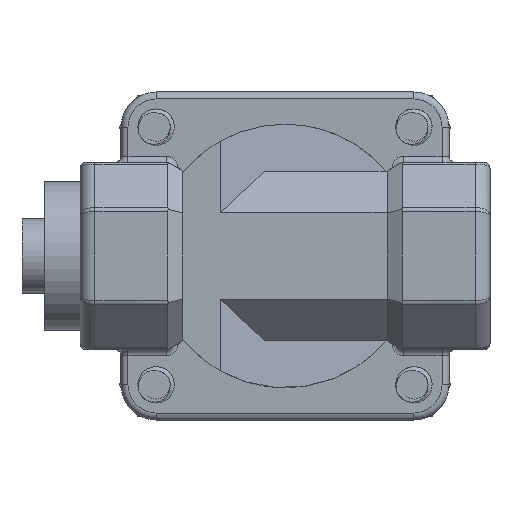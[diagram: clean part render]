
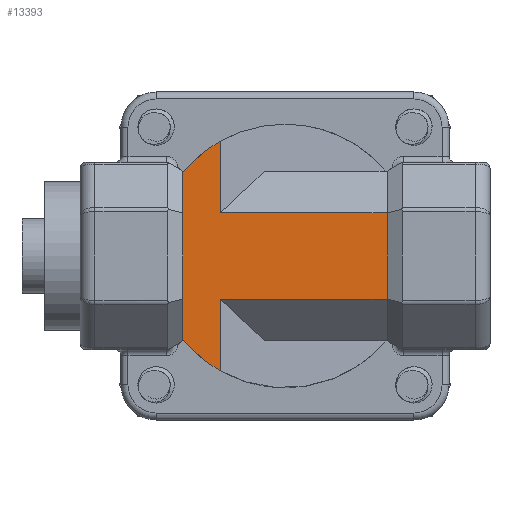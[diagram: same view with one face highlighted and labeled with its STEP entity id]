
A CAD part, front view. The second image highlights one B-rep face of the part: STEP entity #13393.
In plain terms, the highlighted planar face has unit normal (0, -1, 0).
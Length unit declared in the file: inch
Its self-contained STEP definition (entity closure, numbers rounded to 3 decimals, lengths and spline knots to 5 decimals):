
#488 = CARTESIAN_POINT ( 'NONE',  ( -0.43443, -1.35811, 0. ) ) ;
#796 = DIRECTION ( 'NONE',  ( 0., 0., -1. ) ) ;
#2786 = AXIS2_PLACEMENT_3D ( 'NONE', #16896, #8504, #796 ) ;
#3479 = DIRECTION ( 'NONE',  ( 0., 0., -1. ) ) ;
#3914 = VECTOR ( 'NONE', #3479, 39.37008 ) ;
#4021 = ORIENTED_EDGE ( 'NONE', *, *, #13512, .F. ) ;
#4305 = LINE ( 'NONE', #30890, #31759 ) ;
#4333 = EDGE_CURVE ( 'NONE', #10539, #17170, #19404, .T. ) ;
#4507 = EDGE_LOOP ( 'NONE', ( #29802, #4021, #26806, #14825, #19158, #29922, #20759, #11652, #26288, #25468 ) ) ;
#4641 = DIRECTION ( 'NONE',  ( 0., 0., 1. ) ) ;
#4861 = VECTOR ( 'NONE', #13318, 39.37008 ) ;
#5161 = LINE ( 'NONE', #26498, #23194 ) ;
#5851 = CARTESIAN_POINT ( 'NONE',  ( -0.686, -1.35811, 0.56071 ) ) ;
#6456 = DIRECTION ( 'NONE',  ( 0., -1., 0. ) ) ;
#6572 = CARTESIAN_POINT ( 'NONE',  ( -0.686, -1.35811, -0.56071 ) ) ;
#6968 = AXIS2_PLACEMENT_3D ( 'NONE', #17309, #6456, #27980 ) ;
#7203 = CARTESIAN_POINT ( 'NONE',  ( -0.686, -1.35811, -0.29061 ) ) ;
#7434 = DIRECTION ( 'NONE',  ( 0., 0., 1. ) ) ;
#8008 = VECTOR ( 'NONE', #16167, 39.37008 ) ;
#8182 = CARTESIAN_POINT ( 'NONE',  ( 0.686, -1.35811, 0.29061 ) ) ;
#8317 = DIRECTION ( 'NONE',  ( 0., 0., -1. ) ) ;
#8504 = DIRECTION ( 'NONE',  ( 0., -1., 0. ) ) ;
#10523 = CARTESIAN_POINT ( 'NONE',  ( -0.43443, -1.35811, 0.29061 ) ) ;
#10539 = VERTEX_POINT ( 'NONE', #22258 ) ;
#11652 = ORIENTED_EDGE ( 'NONE', *, *, #21457, .F. ) ;
#12023 = VERTEX_POINT ( 'NONE', #6572 ) ;
#13318 = DIRECTION ( 'NONE',  ( 0., 0., -1. ) ) ;
#13393 = ADVANCED_FACE ( 'Defeatured_0_58', ( #32973 ), #24941, .T. ) ;
#13512 = EDGE_CURVE ( 'NONE', #19636, #24060, #19228, .T. ) ;
#14203 = EDGE_CURVE ( 'NONE', #12023, #27541, #4305, .T. ) ;
#14728 = VECTOR ( 'NONE', #16047, 39.37008 ) ;
#14825 = ORIENTED_EDGE ( 'NONE', *, *, #21338, .T. ) ;
#16047 = DIRECTION ( 'NONE',  ( 0., 0., -1. ) ) ;
#16167 = DIRECTION ( 'NONE',  ( 1., 0., 0. ) ) ;
#16525 = DIRECTION ( 'NONE',  ( 0., -1., 0. ) ) ;
#16772 = CARTESIAN_POINT ( 'NONE',  ( -0.43443, -1.35811, 0. ) ) ;
#16896 = CARTESIAN_POINT ( 'NONE',  ( -2.46234, -1.35811, 0.29061 ) ) ;
#17170 = VERTEX_POINT ( 'NONE', #5851 ) ;
#17309 = CARTESIAN_POINT ( 'NONE',  ( 0., -1.35811, 0. ) ) ;
#18586 = EDGE_CURVE ( 'NONE', #12023, #24060, #32078, .T. ) ;
#18677 = LINE ( 'NONE', #488, #14728 ) ;
#18795 = LINE ( 'NONE', #29462, #8008 ) ;
#19158 = ORIENTED_EDGE ( 'NONE', *, *, #32662, .F. ) ;
#19228 = LINE ( 'NONE', #16772, #3914 ) ;
#19404 = CIRCLE ( 'NONE', #20556, 0.886 ) ;
#19636 = VERTEX_POINT ( 'NONE', #19860 ) ;
#19860 = CARTESIAN_POINT ( 'NONE',  ( -0.43443, -1.35811, -0.29061 ) ) ;
#20556 = AXIS2_PLACEMENT_3D ( 'NONE', #30348, #16525, #8317 ) ;
#20759 = ORIENTED_EDGE ( 'NONE', *, *, #4333, .T. ) ;
#21247 = CARTESIAN_POINT ( 'NONE',  ( -0.686, -1.35811, 0. ) ) ;
#21338 = EDGE_CURVE ( 'NONE', #29429, #32216, #5161, .T. ) ;
#21457 = EDGE_CURVE ( 'NONE', #25147, #17170, #23692, .T. ) ;
#21887 = CARTESIAN_POINT ( 'NONE',  ( -0.686, -1.35811, 0.29061 ) ) ;
#22258 = CARTESIAN_POINT ( 'NONE',  ( -0.43443, -1.35811, 0.77218 ) ) ;
#22524 = CARTESIAN_POINT ( 'NONE',  ( 0.686, -1.35811, -0.29061 ) ) ;
#23194 = VECTOR ( 'NONE', #7434, 39.37008 ) ;
#23413 = CARTESIAN_POINT ( 'NONE',  ( -2.46234, -1.35811, -0.29061 ) ) ;
#23644 = CARTESIAN_POINT ( 'NONE',  ( -0.686, -1.35811, 0. ) ) ;
#23692 = LINE ( 'NONE', #21247, #33238 ) ;
#24060 = VERTEX_POINT ( 'NONE', #25013 ) ;
#24908 = VERTEX_POINT ( 'NONE', #10523 ) ;
#24941 = PLANE ( 'NONE',  #2786 ) ;
#25013 = CARTESIAN_POINT ( 'NONE',  ( -0.43443, -1.35811, -0.77218 ) ) ;
#25147 = VERTEX_POINT ( 'NONE', #21887 ) ;
#25468 = ORIENTED_EDGE ( 'NONE', *, *, #14203, .F. ) ;
#26288 = ORIENTED_EDGE ( 'NONE', *, *, #29859, .T. ) ;
#26498 = CARTESIAN_POINT ( 'NONE',  ( 0.686, -1.35811, 0.315 ) ) ;
#26806 = ORIENTED_EDGE ( 'NONE', *, *, #33293, .T. ) ;
#27541 = VERTEX_POINT ( 'NONE', #7203 ) ;
#27980 = DIRECTION ( 'NONE',  ( 0., 0., -1. ) ) ;
#29429 = VERTEX_POINT ( 'NONE', #22524 ) ;
#29462 = CARTESIAN_POINT ( 'NONE',  ( -2.46234, -1.35811, 0.29061 ) ) ;
#29777 = LINE ( 'NONE', #23644, #4861 ) ;
#29802 = ORIENTED_EDGE ( 'NONE', *, *, #18586, .T. ) ;
#29859 = EDGE_CURVE ( 'NONE', #25147, #27541, #29777, .T. ) ;
#29922 = ORIENTED_EDGE ( 'NONE', *, *, #32142, .F. ) ;
#30348 = CARTESIAN_POINT ( 'NONE',  ( 0., -1.35811, 0. ) ) ;
#30890 = CARTESIAN_POINT ( 'NONE',  ( -0.686, -1.35811, 0. ) ) ;
#31285 = LINE ( 'NONE', #23413, #33405 ) ;
#31759 = VECTOR ( 'NONE', #4641, 39.37008 ) ;
#32078 = CIRCLE ( 'NONE', #6968, 0.886 ) ;
#32142 = EDGE_CURVE ( 'NONE', #10539, #24908, #18677, .T. ) ;
#32216 = VERTEX_POINT ( 'NONE', #8182 ) ;
#32662 = EDGE_CURVE ( 'NONE', #24908, #32216, #18795, .T. ) ;
#32973 = FACE_OUTER_BOUND ( 'NONE', #4507, .T. ) ;
#33238 = VECTOR ( 'NONE', #34349, 39.37008 ) ;
#33293 = EDGE_CURVE ( 'NONE', #19636, #29429, #31285, .T. ) ;
#33405 = VECTOR ( 'NONE', #34071, 39.37008 ) ;
#34071 = DIRECTION ( 'NONE',  ( 1., 0., 0. ) ) ;
#34349 = DIRECTION ( 'NONE',  ( 0., 0., 1. ) ) ;
